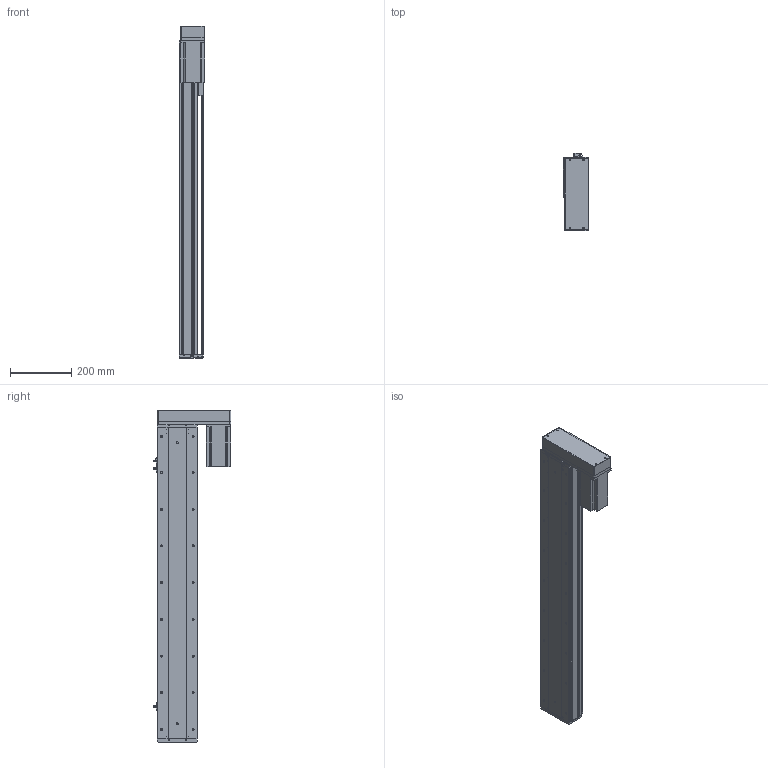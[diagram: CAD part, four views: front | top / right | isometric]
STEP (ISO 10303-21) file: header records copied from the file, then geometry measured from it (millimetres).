
FILE_DESCRIPTION (( 'STEP AP214' ), '1' );
FILE_NAME ('KSD130-P2010-S800-MR-CM.STEP', '2019-09-17T07:55:07', ( '微软用户' ), ( '微软中国' ), 'SwSTEP 2.0', 'SolidWorks 2014', '' );
FILE_SCHEMA (( 'AUTOMOTIVE_DESIGN' ));
Length unit declared in the file: millimetre
Products named in the file (11): 130宽滚珠丝杆安装板半封闭-20丝杠; 130宽马达安装板半封闭; 130遵傷裔圉猾敕; 130宽底板半封闭丝杠-800行程; KSD130-P2010-S800-MR-CM; 130宽模组保护罩左右折; 台达ECMA－C20807AS伺服电机; 130宽模组马达安装板连板左右折丝杆; U倰嫖萇EEㄜSX672; 覜茼え100遵圉猾敕; 130宽盖板半封闭丝杠-800行程
Assembly tree (12 placements, depth 2):
  KSD130-P2010-S800-MR-CM
    130宽底板半封闭丝杠-800行程
    130遵傷裔圉猾敕
    130宽马达安装板半封闭
    130宽滚珠丝杆安装板半封闭-20丝杠
    130宽盖板半封闭丝杠-800行程
    覜茼え100遵圉猾敕
    U倰嫖萇EEㄜSX672  x3
    130宽模组马达安装板连板左右折丝杆
    台达ECMA－C20807AS伺服电机
    130宽模组保护罩左右折
Bounding box: 85 x 253.7 x 1085.5 mm (x, y, z)
Volume: 4235967.8 mm3; surface area: 1162710.9 mm2
Topology: 13 solids, 13 shells, 1368 faces, 3869 edges, 2465 vertices
Faces by surface type: cylinder 655, plane 562, cone 151
Entity records: 45001 total; most frequent: CARTESIAN_POINT 8544, DIRECTION 6607, ORIENTED_EDGE 6402, EDGE_CURVE 3201, AXIS2_PLACEMENT_3D 2396, VERTEX_POINT 2089, LINE 1815, VECTOR 1815
